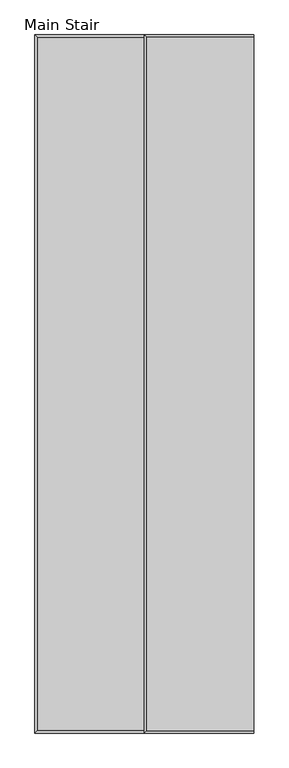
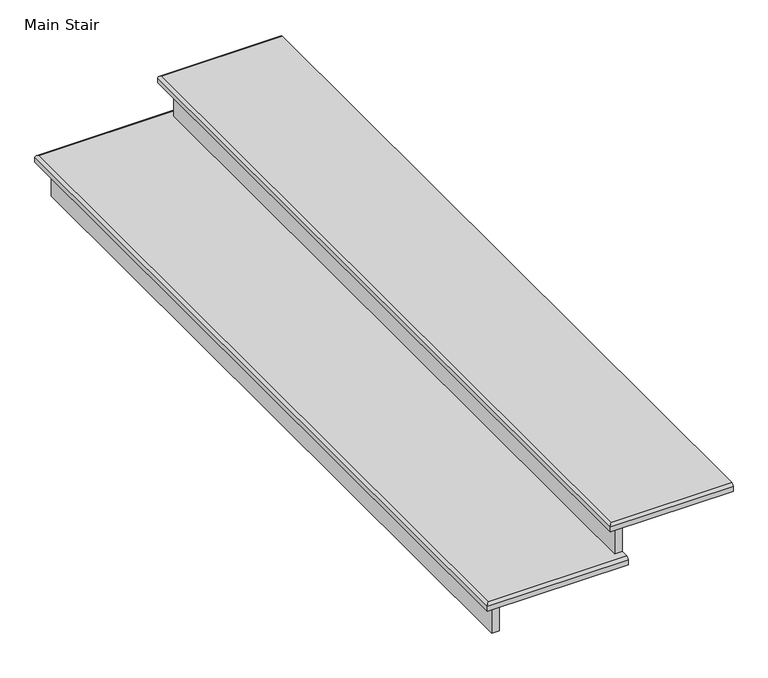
"""IFC4 building model written with IfcOpenShell, lengths in millimetres: stair flight geometry, Main Stair."""

from ifc_helpers import new_model, si_unit, frame, origin, place, context, project, spatial, circle_curve, ellipse_curve, faceted_brep, source, transform, mapped, element, save
from ifc_brep_helpers import plane_surface, cylinder_surface, advanced_brep


def main_stair_61a61aa4(model_context):
    return source(origin(), model_context, "Body", "SolidModel", [
        advanced_brep(
        [(3060.0788706, -4910.3939898, 95.25), (3060.0788706, -4904.0439898, 101.6), (2717.1788706, -4904.0439898, 101.6), (2710.8288706, -4910.3939898, 95.25), (3060.0788706, -4910.3939898, 82.55), (2710.8288706, -4910.3939898, 82.55), (2717.1788706, -2973.6439898, 101.6), (2710.8288706, -2967.2939898, 95.25), (2710.8288706, -2967.2939898, 82.55), (3060.0788706, -2973.6439898, 101.6), (3060.0788706, -2967.2939898, 95.25), (3060.0788706, -2967.2939898, 82.55)],
        [
            (0, 1, circle_curve(frame((3060.0788706, -4904.0439898, 95.25), z_axis=(-1.0, 0.0, 0.0), x_axis=(0.0, 1.0, 0.0)), 6.35)),
            (1, 2),
            (2, 3, ellipse_curve(frame((2717.1788706, -4904.0439898, 95.25), z_axis=(0.7071067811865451, -0.7071067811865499, 0.0), x_axis=(0.7071067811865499, 0.707106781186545, 0.0)), 8.9802561, 6.35)),
            (3, 0),
            (4, 0),
            (3, 5),
            (5, 4),
            (2, 6),
            (6, 7, ellipse_curve(frame((2717.1788706, -2973.6439898, 95.25), z_axis=(-0.7071067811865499, -0.707106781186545, 0.0), x_axis=(0.7071067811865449, -0.70710678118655, 0.0)), 8.9802561, 6.35)),
            (7, 3),
            (7, 8),
            (8, 5),
            (6, 9),
            (9, 10, circle_curve(frame((3060.0788706, -2973.6439898, 95.25), z_axis=(-1.0, 0.0, 0.0), x_axis=(0.0, -1.0, 0.0)), 6.35)),
            (10, 7),
            (10, 11),
            (11, 8),
            (1, 9),
            (11, 4),
        ],
        [
            cylinder_surface(frame((3060.0788706, -4904.0439898, 95.25), z_axis=(1.0, 0.0, 0.0), x_axis=(0.0, 1.0, 0.0)), 6.35),
            plane_surface(frame((3060.0788706, -4910.3939898, 95.25), z_axis=(0.0, -1.0, 0.0), x_axis=(-1.0, 0.0, 0.0))),
            cylinder_surface(frame((2717.1788706, -4884.9939898, 95.25), z_axis=(0.0, -1.0, 0.0), x_axis=(1.0, 0.0, 0.0)), 6.35),
            plane_surface(frame((2710.8288706, -4910.3939898, 95.25), z_axis=(-1.0, 0.0, 0.0), x_axis=(0.0, 1.0, 0.0))),
            cylinder_surface(frame((2736.2288706, -2973.6439898, 95.25), z_axis=(-1.0, 0.0, 0.0), x_axis=(0.0, -1.0, 0.0)), 6.35),
            plane_surface(frame((2710.8288706, -2967.2939898, 95.25), z_axis=(0.0, 1.0, 0.0), x_axis=(1.0, 0.0, 0.0))),
            plane_surface(frame((2710.8288706, -2992.6939898, 101.6), z_axis=(0.0, 0.0, 1.0), x_axis=(-1.0, 0.0, 0.0))),
            plane_surface(frame((2710.8288706, -2992.6939898, 82.55), z_axis=(0.0, 0.0, -1.0), x_axis=(1.0, 0.0, 0.0))),
            plane_surface(frame((3060.0788706, -4884.9939898, 101.6), z_axis=(1.0, 0.0, 0.0), x_axis=(0.0, 0.0, -1.0))),
        ],
        [
            (0, [[1, 2, 3, 4]]),
            (1, [[5, -4, 6, 7]]),
            (2, [[-3, 8, 9, 10]]),
            (3, [[-6, -10, 11, 12]]),
            (4, [[-9, 13, 14, 15]]),
            (5, [[-11, -15, 16, 17]]),
            (6, [[-13, -8, -2, 18]]),
            (7, [[-7, -12, -17, 19]]),
            (8, [[-18, -1, -5, -19, -16, -14]]),
        ],
    ),
        faceted_brep([(2736.2288706, -4884.9939898, 82.55), (2736.2288706, -4884.9939898, 0.0), (2755.2788706, -4884.9939898, 0.0), (2755.2788706, -4884.9939898, 82.55), (2736.2288706, -2992.6939898, 82.55), (2755.2788706, -2992.6939898, 82.55), (2755.2788706, -2992.6939898, 0.0), (2736.2288706, -2992.6939898, 0.0)], [[[0, 1, 2, 3]], [[4, 5, 6, 7]], [[1, 0, 4, 7]], [[2, 1, 7, 6]], [[3, 2, 6, 5]], [[0, 3, 5, 4]]]),
        faceted_brep([(3041.0288706, -4884.9939898, 184.15), (3041.0288706, -4884.9939898, 101.6), (3060.0788706, -4884.9939898, 101.6), (3060.0788706, -4884.9939898, 184.15), (3041.0288706, -2992.6939898, 184.15), (3060.0788706, -2992.6939898, 184.15), (3060.0788706, -2992.6939898, 101.6), (3041.0288706, -2992.6939898, 101.6)], [[[0, 1, 2, 3]], [[4, 5, 6, 7]], [[1, 0, 4, 7]], [[2, 1, 7, 6]], [[3, 2, 6, 5]], [[0, 3, 5, 4]]]),
        advanced_brep(
        [(3320.4288706, -2973.6439898, 203.2), (3021.9788706, -2973.6439898, 203.2), (3021.9788706, -4904.0439898, 203.2), (3320.4288706, -4904.0439898, 203.2), (3320.4288706, -4910.3939898, 184.15), (3015.6288706, -4910.3939898, 184.15), (3015.6288706, -2967.2939898, 184.15), (3320.4288706, -2967.2939898, 184.15), (3320.4288706, -4910.3939898, 196.85), (3320.4288706, -2967.2939898, 196.85), (3015.6288706, -4910.3939898, 196.85), (3015.6288706, -2967.2939898, 196.85)],
        [
            (0, 1),
            (1, 2),
            (2, 3),
            (3, 0),
            (4, 5),
            (5, 6),
            (6, 7),
            (7, 4),
            (3, 8, circle_curve(frame((3320.4288706, -4904.0439898, 196.85), z_axis=(1.0, 0.0, 0.0), x_axis=(0.0, 1.0, 0.0)), 6.35)),
            (8, 4),
            (7, 9),
            (9, 0, circle_curve(frame((3320.4288706, -2973.6439898, 196.85), z_axis=(1.0, 0.0, 0.0), x_axis=(0.0, -1.0, 0.0)), 6.35)),
            (2, 10, ellipse_curve(frame((3021.9788706, -4904.0439898, 196.85), z_axis=(0.7071067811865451, -0.7071067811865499, 0.0), x_axis=(0.7071067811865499, 0.707106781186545, 0.0)), 8.9802561, 6.35)),
            (10, 8),
            (10, 5),
            (1, 11, ellipse_curve(frame((3021.9788706, -2973.6439898, 196.85), z_axis=(-0.7071067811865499, -0.707106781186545, 0.0), x_axis=(0.7071067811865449, -0.70710678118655, 0.0)), 8.9802561, 6.35)),
            (11, 10),
            (11, 6),
            (9, 11),
        ],
        [
            plane_surface(frame((2710.8288706, -2992.6939898, 203.2), z_axis=(0.0, 0.0, 1.0), x_axis=(-1.0, 0.0, 0.0))),
            plane_surface(frame((2710.8288706, -2992.6939898, 184.15), z_axis=(0.0, 0.0, -1.0), x_axis=(1.0, 0.0, 0.0))),
            plane_surface(frame((3320.4288706, -4884.9939898, 203.2), z_axis=(1.0, 0.0, 0.0), x_axis=(0.0, 0.0, -1.0))),
            cylinder_surface(frame((3320.4288706, -4904.0439898, 196.85), z_axis=(1.0, 0.0, 0.0), x_axis=(0.0, 1.0, 0.0)), 6.35),
            plane_surface(frame((3320.4288706, -4910.3939898, 196.85), z_axis=(0.0, -1.0, 0.0), x_axis=(-1.0, 0.0, 0.0))),
            cylinder_surface(frame((3021.9788706, -4884.9939898, 196.85), z_axis=(0.0, -1.0, 0.0), x_axis=(1.0, 0.0, 0.0)), 6.35),
            plane_surface(frame((3015.6288706, -4910.3939898, 196.85), z_axis=(-1.0, 0.0, 0.0), x_axis=(0.0, 1.0, 0.0))),
            cylinder_surface(frame((3041.0288706, -2973.6439898, 196.85), z_axis=(-1.0, 0.0, 0.0), x_axis=(0.0, -1.0, 0.0)), 6.35),
            plane_surface(frame((3015.6288706, -2967.2939898, 196.85), z_axis=(0.0, 1.0, 0.0), x_axis=(1.0, 0.0, 0.0))),
        ],
        [
            (0, [[1, 2, 3, 4]]),
            (1, [[5, 6, 7, 8]]),
            (2, [[-4, 9, 10, -8, 11, 12]]),
            (3, [[-9, -3, 13, 14]]),
            (4, [[-10, -14, 15, -5]]),
            (5, [[-13, -2, 16, 17]]),
            (6, [[-15, -17, 18, -6]]),
            (7, [[-16, -1, -12, 19]]),
            (8, [[-18, -19, -11, -7]]),
        ],
    ),
    ])


if __name__ == "__main__":
    model = new_model("IFC4")
    model_context = context("Model", 3, world=origin())
    ifc_project = project(units=[si_unit("LENGTHUNIT", "METRE", prefix="MILLI")], contexts=[model_context])
    site = spatial("IfcSite", under=ifc_project)
    building = spatial("IfcBuilding", under=site)
    placement = place(None, origin())
    main_stair_shape = main_stair_61a61aa4(model_context)
    element("IfcStairFlight", 1, ObjectType="Main Stair", at=placement, inside=building, context=model_context, shape_type="MappedRepresentation", body=[
        mapped(main_stair_shape, transform((0.0, 0.0, 0.0), x_axis=(1.0, 0.0, 0.0), y_axis=(0.0, 1.0, 0.0), z_axis=(0.0, 0.0, 1.0))),
    ])
    save(model, "model.ifc")
